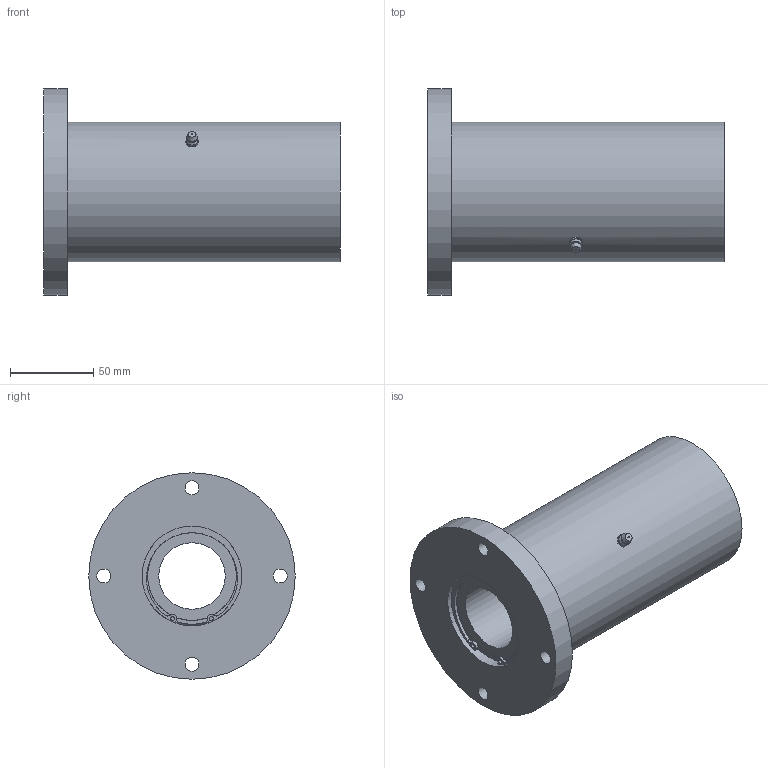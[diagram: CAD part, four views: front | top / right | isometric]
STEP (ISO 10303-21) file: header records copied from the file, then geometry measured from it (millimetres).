
FILE_DESCRIPTION((''),'2;1');
FILE_NAME('D:\製品 (図面)\カタログ用3D\リニアベアリング関連(改)\STEP形式\LFW-OH\LFW40-OH.stp','2010-01-22T16:18:09',('Tsuchiya'),(''),'Autodesk Inventor 10','Autodesk Inventor 10','');
FILE_SCHEMA(('AUTOMOTIVE_DESIGN { 1 0 10303 214 1 1 1 1 }'));
Length unit declared in the file: millimetre
Products named in the file (1): LFW40-OH
Bounding box: 178 x 124 x 124 mm (x, y, z)
Volume: 834217.1 mm3; surface area: 107758.3 mm2
Topology: 1 solids, 7 shells, 105 faces, 244 edges, 152 vertices
Faces by surface type: bspline 36, plane 31, cylinder 27, cone 7, sphere 2, torus 2
Full cylindrical faces by diameter (mm): 2.5 x2, 8.376 x4, 40 x2, 53.4 x2, 57 x2, 60 x8, 84 x1, 124 x1
Entity records: 3077 total; most frequent: CARTESIAN_POINT 926, DIRECTION 452, ORIENTED_EDGE 372, AXIS2_PLACEMENT_3D 208, EDGE_CURVE 186, EDGE_LOOP 178, VERTEX_POINT 134, CIRCLE 134
